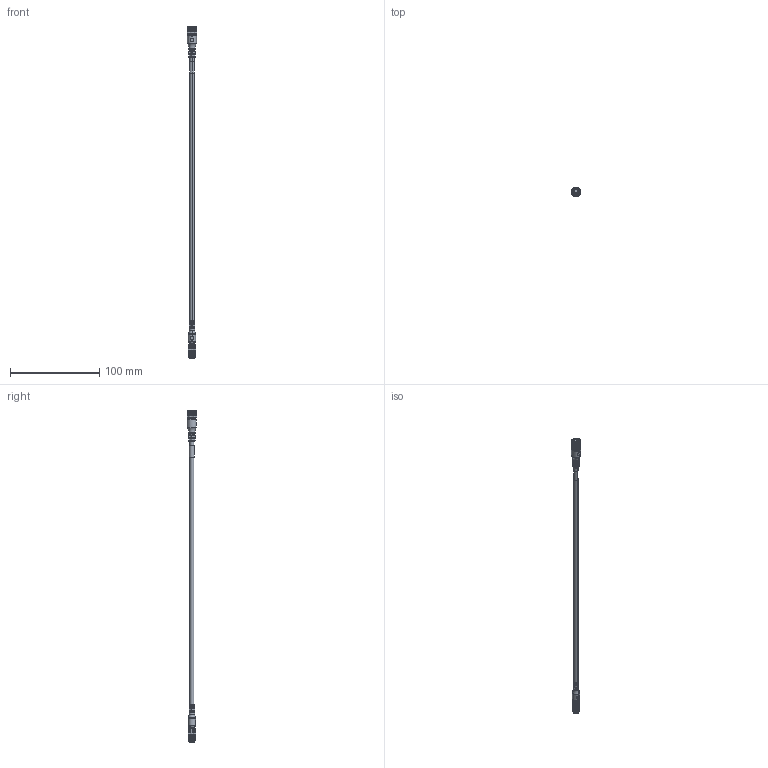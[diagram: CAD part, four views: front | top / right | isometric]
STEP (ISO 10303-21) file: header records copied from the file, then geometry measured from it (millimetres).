
FILE_DESCRIPTION((''),'2;1');
FILE_NAME('889P-F4ABP3M-2_ASM','2015-03-23T',('20066374'),('Rockwell Automation'),'PRO/ENGINEER BY PARAMETRIC TECHNOLOGY CORPORATION, 2009140','PRO/ENGINEER BY PARAMETRIC TECHNOLOGY CORPORATION, 2009140','');
FILE_SCHEMA(('CONFIG_CONTROL_DESIGN'));
Length unit declared in the file: inch
Products named in the file (3): 889P-F4AB-2; 889P-M3AB-2; 889P-F4ABP3M-2_ASM
Assembly tree (2 placements, depth 2):
  889P-F4ABP3M-2_ASM
    889P-F4AB-2
    889P-M3AB-2
Bounding box: 10.6 x 10.91 x 371.7 mm (x, y, z)
Volume: 8484.1 mm3; surface area: 7660.6 mm2
Topology: 4 solids, 4 shells, 820 faces, 1991 edges, 1207 vertices
Faces by surface type: plane 372, cylinder 320, cone 88, torus 40
Entity records: 24600 total; most frequent: CARTESIAN_POINT 5218, DIRECTION 4196, ORIENTED_EDGE 3982, EDGE_CURVE 1991, AXIS2_PLACEMENT_3D 1607, VERTEX_POINT 1207, VECTOR 982, LINE 982
